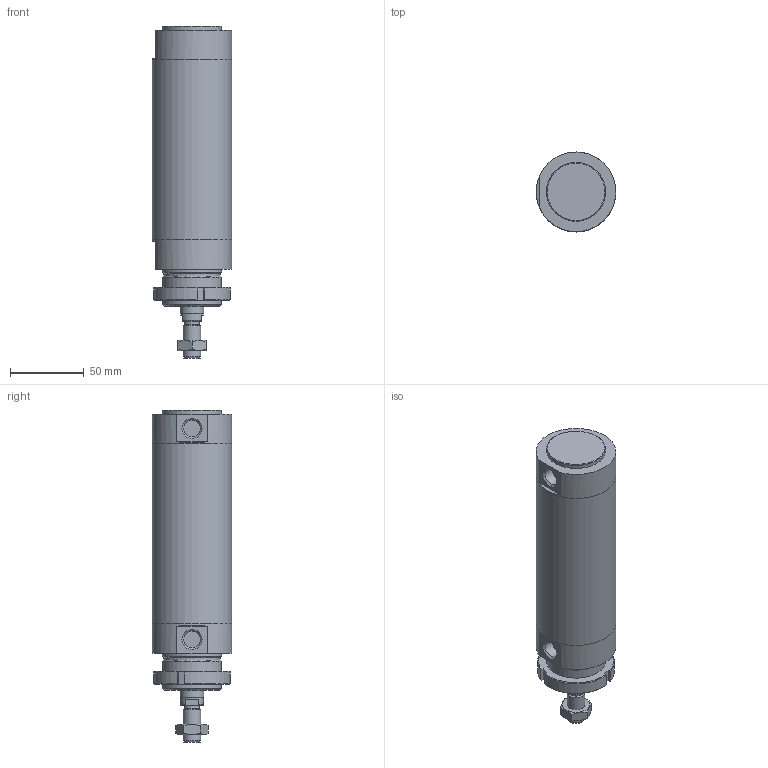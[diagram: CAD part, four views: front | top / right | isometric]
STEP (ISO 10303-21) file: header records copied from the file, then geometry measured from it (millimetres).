
FILE_DESCRIPTION(/* description */ (''),/* implementation_level */ '2;1');
FILE_NAME(/* name */ 'I:\Area Tecnica\Documenti\A-Manieri\_Inventor\12X\12X#D_###_####_#_#\12XAD_050_0080_#_#.stp',/* time_stamp */ '2015-04-29T16:44:08+02:00',/* author */ ('maniean1'),/* organization */ ('Pneumax S.p.A.'),/* preprocessor_version */ 'ST-DEVELOPER v15.2',/* originating_system */ 'Autodesk Inventor 2014',/* authorisation */ '');
FILE_SCHEMA (('AUTOMOTIVE_DESIGN { 1 0 10303 214 3 1 1 }'));
Length unit declared in the file: millimetre
Products named in the file (7): C1250_619-0080; 12X50_604; S12X50_0080; 12X_50_11; 12X50_611; G12X_050_05; 12XAD_050_0080_#_#
Bounding box: 54 x 54 x 225 mm (x, y, z)
Volume: 277692.4 mm3; surface area: 85691 mm2
Topology: 6 solids, 6 shells, 81 faces, 175 edges, 112 vertices
Faces by surface type: plane 41, cylinder 21, cone 19
Full cylindrical faces by diameter (mm): 10.2 x1, 11.4 x2, 12 x2, 14 x1, 15.6 x1, 16 x1, 38.2 x1, 40 x4, 50 x2, 54 x3
Entity records: 2155 total; most frequent: CARTESIAN_POINT 400, DIRECTION 364, ORIENTED_EDGE 284, AXIS2_PLACEMENT_3D 156, EDGE_CURVE 142, EDGE_LOOP 124, VERTEX_POINT 108, ADVANCED_FACE 81
